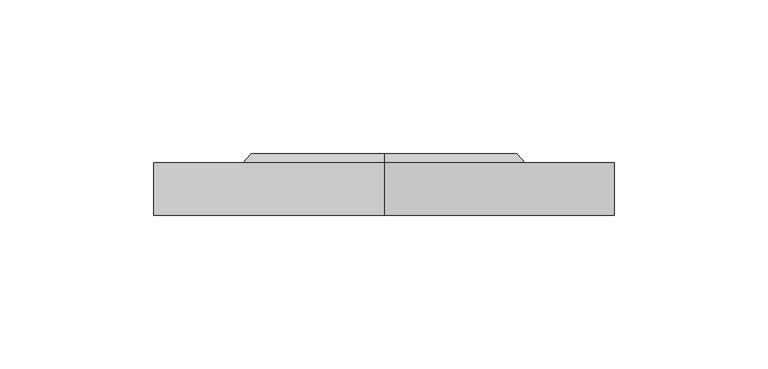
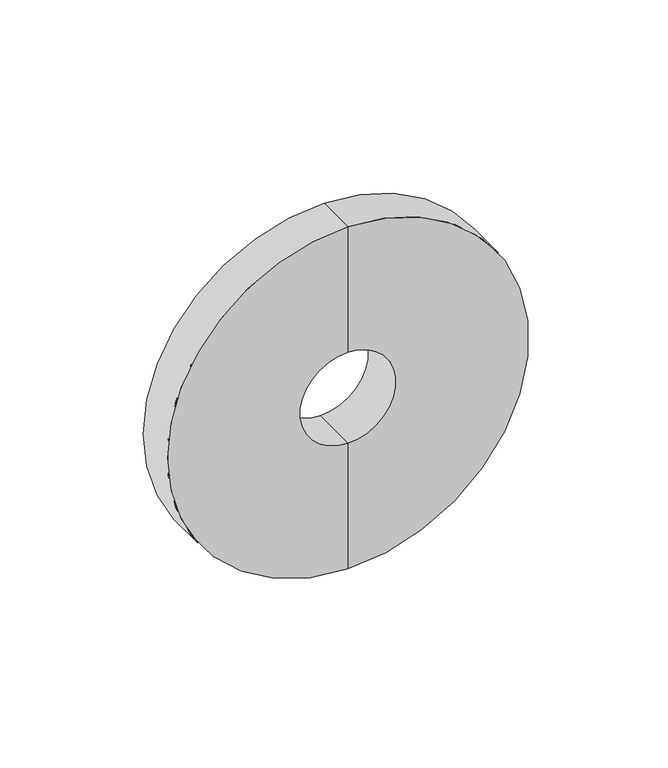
"""IFC4 building model written with IfcOpenShell, lengths in millimetres: pipe fitting geometry, Фланец : Фланец."""

from ifc_helpers import new_model, si_unit, frame, origin, place, context, project, spatial, polyline, circle_curve, source, transform, mapped, element, save
from ifc_brep_helpers import plane_surface, cylinder_surface, revolved_surface, advanced_brep


def pipe_fitting_0825bf11(model_context):
    return source(origin(), model_context, "Body", "AdvancedBrep", [
        advanced_brep(
        [(0.0, 0.0, -75.0), (0.0, 0.0, 75.0), (0.0, 17.0, 75.0), (0.0, 17.0, -75.0), (0.0, 0.0, -20.0), (0.0, 0.0, 20.0), (0.0, 20.0, -20.0), (0.0, 20.0, 20.0), (0.0, 20.0, -43.5), (0.0, 20.0, 43.5), (0.0, 17.0, -46.0), (0.0, 17.0, 46.0)],
        [
            (0, 1, circle_curve(frame((0.0, 0.0, 0.0), z_axis=(0.0, 1.0, 0.0), x_axis=(0.0, 0.0, 1.0)), 75.0)),
            (1, 2),
            (2, 3, circle_curve(frame((0.0, 17.0, 0.0), z_axis=(0.0, -1.0, 0.0), x_axis=(0.0, 0.0, 1.0)), 75.0)),
            (3, 0),
            (1, 0, circle_curve(frame((0.0, 0.0, 0.0), z_axis=(0.0, 1.0, 0.0), x_axis=(0.0, 0.0, 1.0)), 75.0)),
            (3, 2, circle_curve(frame((0.0, 17.0, 0.0), z_axis=(0.0, -1.0, 0.0), x_axis=(0.0, 0.0, 1.0)), 75.0)),
            (4, 5, circle_curve(frame((0.0, 0.0, 0.0), z_axis=(0.0, 1.0, 0.0), x_axis=(0.0, 0.0, 1.0)), 20.0)),
            (5, 1),
            (0, 4),
            (5, 4, circle_curve(frame((0.0, 0.0, 0.0), z_axis=(0.0, 1.0, 0.0), x_axis=(0.0, 0.0, 1.0)), 20.0)),
            (6, 7, circle_curve(frame((0.0, 20.0, 0.0), z_axis=(0.0, 1.0, 0.0), x_axis=(0.0, 0.0, 1.0)), 20.0)),
            (7, 5),
            (4, 6),
            (7, 6, circle_curve(frame((0.0, 20.0, 0.0), z_axis=(0.0, 1.0, 0.0), x_axis=(0.0, 0.0, 1.0)), 20.0)),
            (8, 9, circle_curve(frame((0.0, 20.0, 0.0), z_axis=(0.0, 1.0, 0.0), x_axis=(0.0, 0.0, 1.0)), 43.5)),
            (9, 7),
            (6, 8),
            (9, 8, circle_curve(frame((0.0, 20.0, 0.0), z_axis=(0.0, 1.0, 0.0), x_axis=(0.0, 0.0, 1.0)), 43.5)),
            (10, 11, circle_curve(frame((0.0, 17.0, 0.0), z_axis=(0.0, 1.0, 0.0), x_axis=(0.0, 0.0, 1.0)), 46.0)),
            (11, 9),
            (8, 10),
            (11, 10, circle_curve(frame((0.0, 17.0, 0.0), z_axis=(0.0, 1.0, 0.0), x_axis=(0.0, 0.0, 1.0)), 46.0)),
            (2, 11),
            (10, 3),
        ],
        [
            cylinder_surface(frame((0.0, -60.0, 0.0), z_axis=(0.0, -1.0, 0.0), x_axis=(0.0, 0.0, 1.0)), 75.0),
            plane_surface(frame((0.0, 0.0, 0.0), z_axis=(0.0, -1.0, 0.0), x_axis=(0.0, 0.0, 1.0))),
            revolved_surface(polyline([(0.0, 0.0, 20.0), (0.0, 20.0, 20.0)]), (0.0, -60.0, 0.0), (0.0, -1.0, 0.0)),
            plane_surface(frame((0.0, 20.0, 0.0), z_axis=(0.0, 1.0, 0.0), x_axis=(0.0, 0.0, 1.0))),
            revolved_surface(polyline([(0.0, 20.0, 43.5), (0.0, 17.0, 46.0)]), (0.0, -60.0, 0.0), (0.0, -1.0, 0.0)),
            plane_surface(frame((0.0, 17.0, 0.0), z_axis=(0.0, 1.0, 0.0), x_axis=(0.0, 0.0, 1.0))),
        ],
        [
            (0, [[1, 2, 3, 4]]),
            (0, [[5, -4, 6, -2]]),
            (1, [[7, 8, -1, 9]]),
            (1, [[10, -9, -5, -8]]),
            (2, [[11, 12, -7, 13]]),
            (2, [[14, -13, -10, -12]]),
            (3, [[15, 16, -11, 17]]),
            (3, [[18, -17, -14, -16]]),
            (4, [[19, 20, -15, 21]]),
            (4, [[22, -21, -18, -20]]),
            (5, [[-3, 23, -19, 24]]),
            (5, [[-6, -24, -22, -23]]),
        ],
    ),
    ])


if __name__ == "__main__":
    model = new_model("IFC4")
    model_context = context("Model", 3, world=origin())
    ifc_project = project(units=[si_unit("LENGTHUNIT", "METRE", prefix="MILLI")], contexts=[model_context])
    site = spatial("IfcSite", under=ifc_project)
    building = spatial("IfcBuilding", under=site)
    placement = place(None, origin())
    pipe_fitting_shape = pipe_fitting_0825bf11(model_context)
    element("IfcPipeFitting", 1, ObjectType="Фланец : Фланец", at=placement, inside=building, context=model_context, shape_type="MappedRepresentation", body=[
        mapped(pipe_fitting_shape, transform((0.0, 0.0, 0.0), x_axis=(1.0, 0.0, 0.0), y_axis=(0.0, 1.0, 0.0), z_axis=(0.0, 0.0, 1.0))),
    ])
    save(model, "model.ifc")
